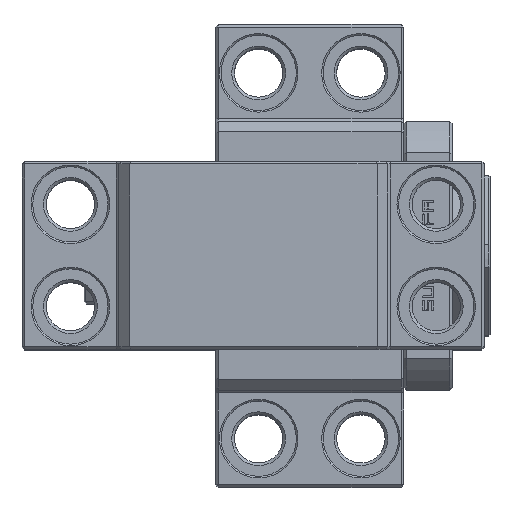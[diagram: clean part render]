
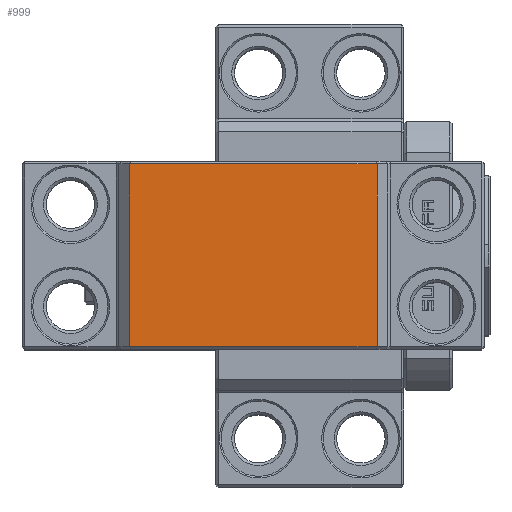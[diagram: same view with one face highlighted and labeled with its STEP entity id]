
A CAD part, top view. The second image highlights one B-rep face of the part: STEP entity #999.
In plain terms, the highlighted planar face has unit normal (0, 0, 1).
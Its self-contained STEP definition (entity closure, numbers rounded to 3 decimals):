
#999 = ADVANCED_FACE( '', ( #2386 ), #2387, .T. );
#2386 = FACE_OUTER_BOUND( '', #4104, .T. );
#2387 = PLANE( '', #4105 );
#4104 = EDGE_LOOP( '', ( #8436, #8437, #8438, #8439 ) );
#4105 = AXIS2_PLACEMENT_3D( '', #8440, #8441, #8442 );
#8436 = ORIENTED_EDGE( '', *, *, #11699, .T. );
#8437 = ORIENTED_EDGE( '', *, *, #11688, .T. );
#8438 = ORIENTED_EDGE( '', *, *, #11611, .T. );
#8439 = ORIENTED_EDGE( '', *, *, #11693, .T. );
#8440 = CARTESIAN_POINT( '', ( 0., -17.5, 64. ) );
#8441 = DIRECTION( '', ( 0., 0., 1. ) );
#8442 = DIRECTION( '', ( 1., 0., 0. ) );
#11611 = EDGE_CURVE( '', #14138, #14139, #14140, .T. );
#11688 = EDGE_CURVE( '', #14245, #14138, #14250, .T. );
#11693 = EDGE_CURVE( '', #14139, #14253, #14256, .T. );
#11699 = EDGE_CURVE( '', #14253, #14245, #14267, .T. );
#14138 = VERTEX_POINT( '', #18807 );
#14139 = VERTEX_POINT( '', #18808 );
#14140 = LINE( '', #18809, #18810 );
#14245 = VERTEX_POINT( '', #18979 );
#14250 = LINE( '', #18988, #18989 );
#14253 = VERTEX_POINT( '', #18994 );
#14256 = LINE( '', #18999, #19000 );
#14267 = LINE( '', #19011, #19012 );
#18807 = CARTESIAN_POINT( '', ( -23., 17., 64. ) );
#18808 = CARTESIAN_POINT( '', ( -23., -17., 64. ) );
#18809 = CARTESIAN_POINT( '', ( -23., -17.5, 64. ) );
#18810 = VECTOR( '', #22557, 1000. );
#18979 = CARTESIAN_POINT( '', ( 23., 17., 64. ) );
#18988 = CARTESIAN_POINT( '', ( 0., 17., 64. ) );
#18989 = VECTOR( '', #22650, 1000. );
#18994 = CARTESIAN_POINT( '', ( 23., -17., 64. ) );
#18999 = CARTESIAN_POINT( '', ( 23., -17., 64. ) );
#19000 = VECTOR( '', #22655, 1000. );
#19011 = CARTESIAN_POINT( '', ( 23., -17.5, 64. ) );
#19012 = VECTOR( '', #22671, 1000. );
#22557 = DIRECTION( '', ( 0., -1., 0. ) );
#22650 = DIRECTION( '', ( -1., 0., 0. ) );
#22655 = DIRECTION( '', ( 1., 0., 0. ) );
#22671 = DIRECTION( '', ( 0., 1., 0. ) );
